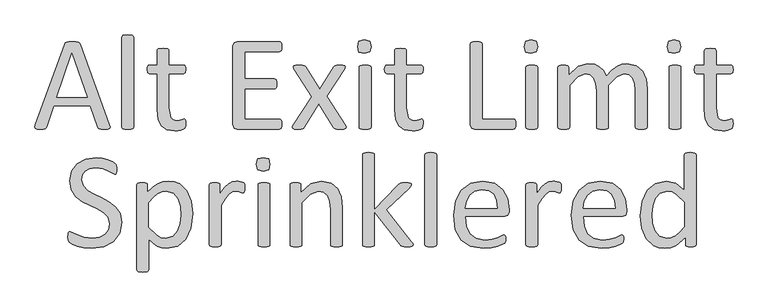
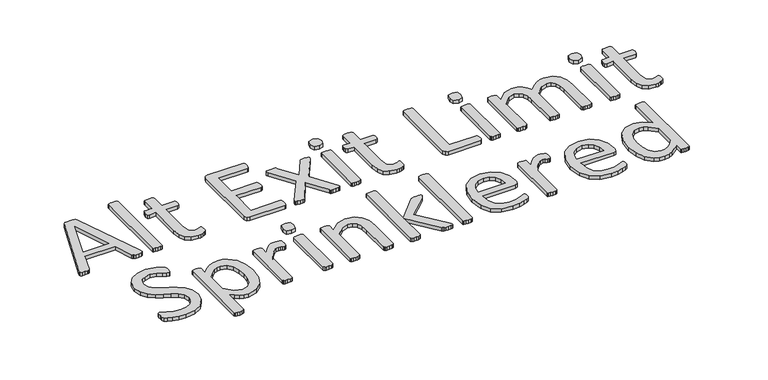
"""IFC4 building model written with IfcOpenShell, lengths in millimetres: proxy geometry, Marker-Alt Exit Limit Sprinklered : Alt Exit Limit Sprinklered Line."""

from ifc_helpers import new_model, si_unit, origin, origin_with_axes, place, context, project, spatial, polyline, outline, extrude, source, transform, mapped, element, save


def generic_models_11812b9f(model_context):
    return source(origin(), model_context, "Body", "SweptSolid", [
        extrude(outline(polyline([(3969.5878214, 57.6759206), (3970.8845935, 52.1872573), (3969.7386089, 48.9604059), (3965.6371902, 47.5430038), (3958.0073451, 47.2414289), (3950.3171851, 47.4826888), (3946.004664, 48.2667836), (3943.8634821, 49.7445006), (3942.5063951, 52.0666274), (3925.3769405, 101.2836516), (3842.2025821, 101.2836516), (3825.8572223, 52.7300921), (3824.5906077, 50.3174929), (3822.3589535, 48.5683585), (3818.1972198, 47.5430038), (3811.140367, 47.2414289), (3803.8120969, 47.6334763), (3799.8011507, 49.1111933), (3798.715481, 52.3078873), (3800.0424106, 57.7965505), (3867.1126692, 242.4810215), (3868.7110161, 245.2253531), (3871.6664502, 246.8840151), (3876.6122786, 247.7284248), (3884.2421237, 247.9696848), (3892.4449611, 247.7284248), (3897.7225219, 246.8840151), (3900.7985859, 245.1650382), (3902.5175628, 242.3603916), (3969.5878214, 57.6759206)]), holes=[polyline([(3883.5183439, 220.9485734), (3848.897545, 120.5844455), (3918.4407178, 120.5844455), (3883.5183439, 220.9485734)])]), origin_with_axes(), (0.0, 0.0, 1.0), 10.0),
        extrude(outline(polyline([(4024.8363438, 52.0063124), (4024.172879, 49.955603), (4022.0316972, 48.477886), (4017.960436, 47.5430038), (4011.2654731, 47.2414289), (4004.6911402, 47.5430038), (4000.5294065, 48.477886), (3998.3882247, 49.955603), (3997.8152324, 52.0063124), (3997.8152324, 258.4644914), (3998.3882247, 260.6358307), (4000.5294065, 262.1738627), (4004.6911402, 263.1087449), (4011.2654731, 263.4103198), (4017.960436, 263.1087449), (4022.0316972, 262.1738627), (4024.172879, 260.6358307), (4024.8363438, 258.4644914), (4024.8363438, 52.0063124)])), origin_with_axes(), (0.0, 0.0, 1.0), 10.0),
        extrude(outline(polyline([(4144.5012655, 61.1138745), (4143.8981157, 53.5745019), (4142.0585088, 49.4730832), (4138.379295, 47.000169), (4132.8001593, 45.1002471), (4126.1353539, 43.86379), (4119.1086586, 43.3812701), (4100.742747, 46.3065467), (4088.2273885, 55.1426914), (4081.1102208, 70.1309641), (4078.8785665, 91.5729397), (4078.8785665, 174.6266682), (4060.5428124, 174.6266682), (4057.014386, 176.88848), (4055.7176139, 184.2167501), (4056.0795038, 188.7102162), (4057.014386, 191.7561227), (4058.552418, 193.4449422), (4060.6634423, 193.927462), (4078.8785665, 193.927462), (4078.8785665, 227.5229063), (4079.4515588, 229.5434582), (4081.5927406, 231.2021201), (4085.7544743, 232.2274748), (4092.3288072, 232.5290497), (4099.0237701, 232.2274748), (4103.0950313, 231.2021201), (4105.2362131, 229.5434582), (4105.8996779, 227.5229063), (4105.8996779, 193.927462), (4139.6760671, 193.927462), (4141.6966189, 193.4449422), (4143.2346509, 191.7561227), (4144.1996906, 188.7102162), (4144.5012655, 184.2167501), (4143.174336, 176.88848), (4139.6760671, 174.6266682), (4105.8996779, 174.6266682), (4105.8996779, 95.9759333), (4109.9106241, 73.9911229), (4115.5123779, 68.4044478), (4124.295747, 66.5422227), (4130.2970876, 67.235845), (4134.9714986, 68.6834045), (4138.4999249, 70.1611216), (4141.1236266, 70.8849013), (4143.5362258, 69.0151369), (4144.1996906, 65.9993879), (4144.5012655, 61.1138745)])), origin_with_axes(), (0.0, 0.0, 1.0), 10.0),
        extrude(outline(polyline([(4364.5303152, 58.7615902), (4364.2287403, 53.6348169), (4363.1430707, 49.9857605), (4361.3336213, 47.8747362), (4359.101967, 47.2414289), (4262.5376828, 47.2414289), (4255.782405, 49.6540281), (4252.585711, 58.0981254), (4252.585711, 237.1129882), (4255.8125625, 245.5570855), (4262.6583128, 247.9696848), (4359.1622819, 247.9696848), (4361.4542512, 247.3363775), (4363.1129132, 245.2253531), (4364.1382679, 241.5762968), (4364.5303152, 236.1479485), (4364.1382679, 231.0513327), (4363.1129132, 227.4625913), (4361.4542512, 225.4420395), (4359.1622819, 224.8087322), (4279.6068224, 224.8087322), (4279.6068224, 163.0461919), (4347.6421206, 163.0461919), (4349.8737749, 162.2922546), (4351.6229094, 160.2113878), (4352.648264, 156.5623315), (4352.9498389, 151.0435107), (4352.648264, 145.8865799), (4351.6229094, 142.388311), (4349.8737749, 140.4582316), (4347.6421206, 139.8852393), (4279.6068224, 139.8852393), (4279.6068224, 70.4023815), (4359.101967, 70.4023815), (4361.3637787, 69.7690742), (4363.1430707, 67.7485223), (4364.2287403, 64.159781), (4364.5303152, 58.7615902)])), origin_with_axes(), (0.0, 0.0, 1.0), 10.0),
        extrude(outline(polyline([(4510.9750884, 54.8411165), (4512.1813881, 51.2825326), (4510.7338285, 48.9302484), (4506.2705199, 47.6334763), (4498.4295725, 47.2414289), (4491.1013023, 47.4826888), (4486.7887812, 48.2366261), (4484.315867, 49.5937131), (4482.8079924, 51.5237925), (4449.4538081, 105.9279051), (4416.2202537, 51.5237925), (4414.7425367, 49.5937131), (4412.2696225, 48.2366261), (4408.0475738, 47.4826888), (4401.0811936, 47.2414289), (4393.7227659, 47.6334763), (4389.5610322, 48.9302484), (4388.3245751, 51.2825326), (4389.8022922, 54.8411165), (4433.0481333, 121.7907451), (4392.0942614, 186.3277745), (4390.7974893, 189.8863583), (4392.1847339, 192.329115), (4396.6782, 193.6258871), (4404.6397774, 193.927462), (4411.8172601, 193.6862021), (4416.0694663, 192.9925798), (4418.391593, 191.7862802), (4419.7788376, 189.9466733), (4451.4442025, 138.8598846), (4483.5920872, 189.9466733), (4484.9793317, 191.6354928), (4487.0903561, 192.9322649), (4490.7997274, 193.6862021), (4497.3439028, 193.927462), (4504.7023304, 193.6258871), (4508.9243791, 192.4799025), (4510.1608362, 190.1276182), (4508.6228042, 186.3277745), (4467.9705072, 122.5748398), (4510.9750884, 54.8411165)])), origin_with_axes(), (0.0, 0.0, 1.0), 10.0),
        extrude(outline(polyline([(4569.1187299, 236.5701534), (4565.8014059, 224.2357399), (4553.4971499, 220.9485734), (4541.4944687, 224.1452674), (4538.2374597, 236.2082635), (4541.5547837, 248.5426771), (4553.8590397, 251.8298435), (4565.8617209, 248.6331496), (4569.1187299, 236.5701534)])), origin_with_axes(), (0.0, 0.0, 1.0), 10.0),
        extrude(outline(polyline([(4569.1187299, 51.9459974), (4568.4552651, 49.8952881), (4566.3140833, 48.4477285), (4562.2428221, 47.5430038), (4555.5478592, 47.2414289), (4548.9735263, 47.5430038), (4544.8117926, 48.4477285), (4542.6706108, 49.8952881), (4542.0976185, 51.9459974), (4542.0976185, 189.2228935), (4542.6706108, 191.1831304), (4544.8117926, 192.7211624), (4548.9735263, 193.6258871), (4555.5478592, 193.927462), (4562.2428221, 193.6258871), (4566.3140833, 192.7211624), (4568.4552651, 191.1831304), (4569.1187299, 189.2228935), (4569.1187299, 51.9459974)])), origin_with_axes(), (0.0, 0.0, 1.0), 10.0),
        extrude(outline(polyline([(4688.7836516, 61.1138745), (4688.1805018, 53.5745019), (4686.3408949, 49.4730832), (4682.6616811, 47.000169), (4677.0825454, 45.1002471), (4670.41774, 43.86379), (4663.3910447, 43.3812701), (4645.0251331, 46.3065467), (4632.5097746, 55.1426914), (4625.3926069, 70.1309641), (4623.1609526, 91.5729397), (4623.1609526, 174.6266682), (4604.8251985, 174.6266682), (4601.2967721, 176.88848), (4600.0, 184.2167501), (4600.3618899, 188.7102162), (4601.2967721, 191.7561227), (4602.8348041, 193.4449422), (4604.9458284, 193.927462), (4623.1609526, 193.927462), (4623.1609526, 227.5229063), (4623.7339449, 229.5434582), (4625.8751267, 231.2021201), (4630.0368604, 232.2274748), (4636.6111933, 232.5290497), (4643.3061562, 232.2274748), (4647.3774174, 231.2021201), (4649.5185992, 229.5434582), (4650.182064, 227.5229063), (4650.182064, 193.927462), (4683.9584532, 193.927462), (4685.979005, 193.4449422), (4687.517037, 191.7561227), (4688.4820767, 188.7102162), (4688.7836516, 184.2167501), (4687.4567221, 176.88848), (4683.9584532, 174.6266682), (4650.182064, 174.6266682), (4650.182064, 95.9759333), (4654.1930102, 73.9911229), (4659.794764, 68.4044478), (4668.5781331, 66.5422227), (4674.5794737, 67.235845), (4679.2538847, 68.6834045), (4682.7823111, 70.1611216), (4685.4060127, 70.8849013), (4687.8186119, 69.0151369), (4688.4820767, 65.9993879), (4688.7836516, 61.1138745)])), origin_with_axes(), (0.0, 0.0, 1.0), 10.0),
        extrude(outline(polyline([(4901.0923838, 58.8822202), (4900.7908089, 53.6951318), (4899.7956117, 50.1063905), (4898.0766348, 47.9350512), (4895.6640355, 47.2414289), (4806.8200689, 47.2414289), (4800.0647911, 49.6238706), (4796.8680971, 58.0378105), (4796.8680971, 243.0238563), (4797.5014044, 245.1951957), (4799.7029012, 246.6427552), (4803.9249498, 247.5776374), (4810.3786528, 247.9696848), (4816.8926707, 247.5776374), (4821.0544044, 246.6427552), (4823.2559012, 245.1951957), (4823.8892085, 243.0238563), (4823.8892085, 70.4023815), (4895.6640355, 70.4023815), (4898.0766348, 69.7087592), (4899.7956117, 67.6882074), (4900.7908089, 64.1899385), (4901.0923838, 58.8822202)])), origin_with_axes(), (0.0, 0.0, 1.0), 10.0),
        extrude(outline(polyline([(4951.2744478, 236.5701534), (4947.9571238, 224.2357399), (4935.6528678, 220.9485734), (4923.6501866, 224.1452674), (4920.3931776, 236.2082635), (4923.7105016, 248.5426771), (4936.0147576, 251.8298435), (4948.0174388, 248.6331496), (4951.2744478, 236.5701534)])), origin_with_axes(), (0.0, 0.0, 1.0), 10.0),
        extrude(outline(polyline([(4951.2744478, 51.9459974), (4950.610983, 49.8952881), (4948.4698012, 48.4477285), (4944.39854, 47.5430038), (4937.7035771, 47.2414289), (4931.1292442, 47.5430038), (4926.9675105, 48.4477285), (4924.8263287, 49.8952881), (4924.2533364, 51.9459974), (4924.2533364, 189.2228935), (4924.8263287, 191.1831304), (4926.9675105, 192.7211624), (4931.1292442, 193.6258871), (4937.7035771, 193.927462), (4944.39854, 193.6258871), (4948.4698012, 192.7211624), (4950.610983, 191.1831304), (4951.2744478, 189.2228935), (4951.2744478, 51.9459974)])), origin_with_axes(), (0.0, 0.0, 1.0), 10.0),
        extrude(outline(polyline([(5202.1847676, 52.0063124), (5201.5213028, 49.955603), (5199.4102785, 48.477886), (5195.3390173, 47.5430038), (5188.8551569, 47.2414289), (5182.160194, 47.5430038), (5178.0286178, 48.4477285), (5175.827121, 49.8952881), (5175.1636562, 52.0063124), (5175.1636562, 135.6028757), (5173.6859392, 151.5260306), (5168.9813707, 163.9207591), (5160.7182184, 171.8823366), (5148.9266396, 174.6266682), (5132.0686025, 167.9015478), (5113.401116, 148.1483917), (5113.401116, 52.0063124), (5112.7376512, 49.8952881), (5110.5361544, 48.4477285), (5106.3744207, 47.5430038), (5099.8302453, 47.2414289), (5093.3463849, 47.5430038), (5089.0941787, 48.4477285), (5086.9529969, 49.8952881), (5086.3800046, 52.0063124), (5086.3800046, 135.6028757), (5084.7515001, 151.5260306), (5079.8961442, 163.9207591), (5071.7536218, 171.8823366), (5060.082673, 174.6266682), (5043.1643209, 167.9015478), (5024.6174643, 148.1483917), (5024.6174643, 52.0063124), (5023.9539995, 49.8952881), (5021.8128177, 48.4477285), (5017.7415565, 47.5430038), (5011.0465937, 47.2414289), (5004.4722608, 47.5430038), (5000.3105271, 48.4477285), (4998.1693453, 49.8952881), (4997.596353, 51.9459974), (4997.596353, 189.2228935), (4998.0788728, 191.2736029), (5000.0391097, 192.7814774), (5003.808796, 193.6862021), (5009.900609, 193.927462), (5015.8717921, 193.6862021), (5019.551006, 192.7814774), (5021.4509278, 191.2736029), (5022.0239202, 189.2228935), (5022.0239202, 171.0680843), (5044.3706205, 191.3640754), (5066.234801, 197.7876208), (5081.4341762, 195.6765965), (5093.3162274, 189.7657284), (5102.0920571, 180.6883238), (5108.1537126, 168.896745), (5121.1817485, 182.3771432), (5133.0637997, 191.3037604), (5144.1919136, 196.2495888), (5155.0787677, 197.7876208), (5177.3349955, 193.0830523), (5191.9010634, 180.5073788), (5199.8324834, 162.0811522), (5202.1847676, 139.7646093), (5202.1847676, 52.0063124)])), origin_with_axes(), (0.0, 0.0, 1.0), 10.0),
        extrude(outline(polyline([(5279.3879429, 236.5701534), (5276.070619, 224.2357399), (5263.7663629, 220.9485734), (5251.7636818, 224.1452674), (5248.5066728, 236.2082635), (5251.8239967, 248.5426771), (5264.1282528, 251.8298435), (5276.130934, 248.6331496), (5279.3879429, 236.5701534)])), origin_with_axes(), (0.0, 0.0, 1.0), 10.0),
        extrude(outline(polyline([(5279.3879429, 51.9459974), (5278.7244781, 49.8952881), (5276.5832963, 48.4477285), (5272.5120351, 47.5430038), (5265.8170723, 47.2414289), (5259.2427394, 47.5430038), (5255.0810057, 48.4477285), (5252.9398239, 49.8952881), (5252.3668316, 51.9459974), (5252.3668316, 189.2228935), (5252.9398239, 191.1831304), (5255.0810057, 192.7211624), (5259.2427394, 193.6258871), (5265.8170723, 193.927462), (5272.5120351, 193.6258871), (5276.5832963, 192.7211624), (5278.7244781, 191.1831304), (5279.3879429, 189.2228935), (5279.3879429, 51.9459974)])), origin_with_axes(), (0.0, 0.0, 1.0), 10.0),
        extrude(outline(polyline([(5399.0528647, 61.1138745), (5398.4497149, 53.5745019), (5396.610108, 49.4730832), (5392.9308942, 47.000169), (5387.3517584, 45.1002471), (5380.6869531, 43.86379), (5373.6602578, 43.3812701), (5355.2943462, 46.3065467), (5342.7789877, 55.1426914), (5335.66182, 70.1309641), (5333.4301657, 91.5729397), (5333.4301657, 174.6266682), (5315.0944115, 174.6266682), (5311.5659852, 176.88848), (5310.2692131, 184.2167501), (5310.631103, 188.7102162), (5311.5659852, 191.7561227), (5313.1040172, 193.4449422), (5315.2150415, 193.927462), (5333.4301657, 193.927462), (5333.4301657, 227.5229063), (5334.003158, 229.5434582), (5336.1443398, 231.2021201), (5340.3060735, 232.2274748), (5346.8804064, 232.5290497), (5353.5753692, 232.2274748), (5357.6466304, 231.2021201), (5359.7878122, 229.5434582), (5360.451277, 227.5229063), (5360.451277, 193.927462), (5394.2276662, 193.927462), (5396.2482181, 193.4449422), (5397.7862501, 191.7561227), (5398.7512898, 188.7102162), (5399.0528647, 184.2167501), (5397.7259351, 176.88848), (5394.2276662, 174.6266682), (5360.451277, 174.6266682), (5360.451277, 95.9759333), (5364.4622233, 73.9911229), (5370.0639771, 68.4044478), (5378.8473462, 66.5422227), (5384.8486867, 67.235845), (5389.5230977, 68.6834045), (5393.0515241, 70.1611216), (5395.6752258, 70.8849013), (5398.087825, 69.0151369), (5398.7512898, 65.9993879), (5399.0528647, 61.1138745)])), origin_with_axes(), (0.0, 0.0, 1.0), 10.0),
        extrude(outline(polyline([(3997.8152324, -166.3294418), (3992.6281441, -191.6617337), (3978.1827062, -210.5101651), (3956.4391556, -222.1811139), (3929.5386742, -226.1015877), (3910.8410302, -224.5937131), (3895.4607101, -220.8843418), (3884.1214937, -216.3305608), (3877.7582633, -212.3196146), (3875.1345616, -207.6753611), (3874.2901519, -199.7439411), (3874.5917268, -193.8632305), (3875.526609, -190.0935442), (3877.0947985, -188.0729923), (3879.2962953, -187.5), (3885.4785808, -189.9125992), (3895.762285, -195.1600026), (3910.8711877, -200.4677209), (3931.2878087, -202.9406351), (3947.361751, -200.5883508), (3959.8771095, -193.9537029), (3967.9593169, -183.4588963), (3970.794121, -169.2848758), (3966.8133323, -154.5680205), (3956.3486831, -143.8621114), (3941.5413554, -135.4180141), (3924.4722158, -127.5770666), (3907.4935488, -118.740922), (3892.746536, -107.3413906), (3882.1914143, -91.9007555), (3878.1503106, -70.7301973), (3882.7644067, -48.081922), (3895.5813401, -31.4349874), (3915.1233938, -21.1814406), (3939.611276, -17.6530143), (3953.1519892, -18.9497864), (3965.9689226, -22.3877403), (3976.7049891, -27.1827812), (3982.8872747, -31.4651449), (3984.8173541, -33.9682166), (3985.6014488, -36.1998708), (3986.0839686, -39.4870373), (3986.2347561, -44.4328657), (3985.9934962, -49.5596391), (3985.2998739, -53.2991679), (3983.9729443, -55.5308222), (3982.0127074, -56.2546019), (3976.5843592, -53.9023177), (3967.5371121, -48.6247569), (3954.8709661, -43.2567236), (3938.4652914, -40.8139669), (3923.7182786, -43.0154637), (3913.3441019, -48.8660168), (3907.2221313, -57.551374), (3905.171422, -68.1969681), (3909.0918957, -82.7328785), (3919.5565449, -93.52926), (3934.4241877, -102.1543023), (3951.4028547, -110.0555647), (3968.4116793, -118.8313944), (3983.279322, -130.1102958), (3993.8042862, -145.4303009), (3997.8152324, -166.3294418)])), origin_with_axes(), (0.0, 0.0, 1.0), 10.0),
        extrude(outline(polyline([(4159.9419006, -146.787388), (4156.0817418, -179.8701549), (4144.7425255, -204.780242), (4126.1956689, -220.5526094), (4100.8935345, -226.1015877), (4089.7051055, -224.8651306), (4079.6325038, -220.9446568), (4069.8614769, -214.2195365), (4059.5777727, -204.6897695), (4059.5777727, -275.137667), (4058.9143079, -277.3391638), (4056.7731261, -278.9073533), (4052.7018649, -279.8422355), (4046.006902, -280.1438104), (4039.4325691, -279.8422355), (4035.2708354, -278.9073533), (4033.1296536, -277.3391638), (4032.5566613, -275.197982), (4032.5566613, -80.3805942), (4033.0391811, -78.1187824), (4034.999418, -76.6410654), (4038.7691043, -75.7966557), (4044.3783975, -75.5553958), (4050.0178482, -75.7664982), (4053.697062, -76.5505929), (4055.7477714, -77.9378375), (4056.3207637, -80.0790193), (4056.3207637, -97.6306787), (4068.2932874, -86.2311474), (4079.9039212, -78.1790974), (4091.9066023, -73.3237415), (4104.8743232, -71.695237), (4118.6261388, -73.1804934), (4130.2066151, -77.6362626), (4147.2757546, -93.8609924), (4156.8959941, -117.8060398), (4159.9419006, -146.787388)]), holes=[polyline([(4132.9207892, -149.7428221), (4131.3525997, -129.2960436), (4125.954409, -111.7443842), (4115.6707047, -99.4702856), (4099.6269199, -94.8561896), (4090.1574679, -96.2735916), (4080.7181734, -100.7972152), (4070.6757291, -108.9397376), (4059.5777727, -121.3344661), (4059.5777727, -177.2464533), (4078.908724, -196.3361447), (4088.2801641, -201.2895125), (4098.1190454, -202.9406351), (4114.1025152, -198.326539), (4124.8988968, -186.0524405), (4130.9605524, -168.8928284), (4132.9207892, -149.7428221)])]), origin_with_axes(), (0.0, 0.0, 1.0), 10.0),
        extrude(outline(polyline([(4279.6068224, -87.1358721), (4279.4560349, -92.6245353), (4278.8528851, -96.1831192), (4277.737058, -98.203671), (4275.8672936, -98.8972933), (4272.942017, -98.203671), (4269.0517007, -96.8164265), (4264.1963448, -95.4894969), (4258.3759491, -94.8561896), (4251.0175215, -96.5148516), (4243.4479914, -101.9431998), (4235.1546816, -111.9554866), (4225.5645996, -127.2453343), (4225.5645996, -217.5368604), (4224.9011348, -219.5875697), (4222.759953, -221.0351293), (4218.6886918, -221.939854), (4211.993729, -222.2414289), (4205.4193961, -221.939854), (4201.2576624, -221.0351293), (4199.1164806, -219.5875697), (4198.5434883, -217.5368604), (4198.5434883, -80.2599643), (4199.0260081, -78.2092549), (4200.986245, -76.7013804), (4204.7559313, -75.7966557), (4210.8477443, -75.5553958), (4216.8189274, -75.7966557), (4220.4981413, -76.7013804), (4222.3980631, -78.2092549), (4222.9710555, -80.2599643), (4222.9710555, -100.2845379), (4233.4055471, -85.9898874), (4242.6638967, -77.2743727), (4251.2889389, -72.9015366), (4259.9441386, -71.695237), (4264.3471322, -71.9063394), (4269.5342206, -72.7205917), (4274.419734, -74.0776787), (4277.495798, -75.5553958), (4278.7020977, -76.9426403), (4279.2449325, -78.6616173), (4279.5465074, -81.7075238), (4279.6068224, -87.1358721)])), origin_with_axes(), (0.0, 0.0, 1.0), 10.0),
        extrude(outline(polyline([(4337.5092039, -217.5368604), (4336.8457391, -219.5875697), (4334.7045573, -221.0351293), (4330.6332961, -221.939854), (4323.9383332, -222.2414289), (4317.3640003, -221.939854), (4313.2022666, -221.0351293), (4311.0610848, -219.5875697), (4310.4880925, -217.5368604), (4310.4880925, -80.2599643), (4311.0610848, -78.2997274), (4313.2022666, -76.7616954), (4317.3640003, -75.8569707), (4323.9383332, -75.5553958), (4330.6332961, -75.8569707), (4334.7045573, -76.7616954), (4336.8457391, -78.2997274), (4337.5092039, -80.2599643), (4337.5092039, -217.5368604)])), origin_with_axes(), (0.0, 0.0, 1.0), 10.0),
        extrude(outline(polyline([(4337.5092039, -32.9127044), (4334.1918799, -45.2471179), (4321.8876239, -48.5342844), (4309.8849427, -45.3375904), (4306.6279337, -33.2745943), (4309.9452577, -20.9401807), (4322.2495137, -17.6530143), (4334.2521949, -20.8497082), (4337.5092039, -32.9127044)])), origin_with_axes(), (0.0, 0.0, 1.0), 10.0),
        extrude(outline(polyline([(4503.4960308, -217.4765454), (4502.832566, -219.5272548), (4500.6913842, -221.0049718), (4496.620123, -221.939854), (4490.0457901, -222.2414289), (4483.3508273, -221.939854), (4479.2795661, -221.0351293), (4477.1383843, -219.5875697), (4476.4749195, -217.4765454), (4476.4749195, -136.8957312), (4474.6956275, -117.9568272), (4469.5386967, -105.5620987), (4460.762867, -97.6005212), (4448.3078235, -94.8561896), (4430.0022268, -101.58131), (4410.8522204, -121.3344661), (4410.8522204, -217.4765454), (4410.1887556, -219.5875697), (4408.0475738, -221.0351293), (4403.9763126, -221.939854), (4397.2813498, -222.2414289), (4390.7070169, -221.939854), (4386.5452832, -221.0351293), (4384.4041014, -219.5875697), (4383.8311091, -217.5368604), (4383.8311091, -80.2599643), (4384.3136289, -78.2092549), (4386.2738658, -76.7013804), (4390.0435521, -75.7966557), (4396.1353651, -75.5553958), (4402.1065482, -75.7966557), (4405.7857621, -76.7013804), (4407.6856839, -78.2092549), (4408.2586763, -80.2599643), (4408.2586763, -98.4147735), (4431.3291564, -78.1187824), (4454.5202665, -71.695237), (4477.5605891, -76.3998055), (4492.6996493, -88.975479), (4500.9929591, -107.4017056), (4503.4960308, -132.7943125), (4503.4960308, -217.4765454)])), origin_with_axes(), (0.0, 0.0, 1.0), 10.0),
        extrude(outline(polyline([(4665.622699, -217.3559155), (4664.9893917, -219.4970973), (4662.9085249, -221.0351293), (4658.8372637, -221.939854), (4652.1724583, -222.2414289), (4645.2965505, -222.000169), (4640.712612, -221.2462317), (4637.696863, -219.7383572), (4635.5858386, -217.3559155), (4576.8390474, -141.4193547), (4576.8390474, -217.5368604), (4576.1755826, -219.5875697), (4574.0344008, -221.0351293), (4569.9631396, -221.939854), (4563.2681767, -222.2414289), (4556.6938438, -221.939854), (4552.5321102, -221.0049718), (4550.3909284, -219.5272548), (4549.817936, -217.4765454), (4549.817936, -11.0183664), (4550.3909284, -8.8470271), (4552.5321102, -7.3089951), (4556.6938438, -6.3741129), (4563.2681767, -6.072538), (4569.9631396, -6.3741129), (4574.0344008, -7.3089951), (4576.1755826, -8.8771846), (4576.8390474, -11.0786814), (4576.8390474, -137.9210858), (4630.5193802, -80.8631141), (4633.2033969, -78.3600424), (4636.5810358, -76.7013804), (4641.2252893, -75.7966557), (4647.7091498, -75.5553958), (4654.3437976, -75.7966557), (4658.6563188, -76.5505929), (4661.0387605, -77.90768), (4661.7625403, -80.1393343), (4660.7070281, -83.7883906), (4657.1786017, -88.0405968), (4603.8601588, -137.7401409), (4661.8228552, -210.1784328), (4664.7481318, -214.3703239), (4665.622699, -217.3559155)])), origin_with_axes(), (0.0, 0.0, 1.0), 10.0),
        extrude(outline(polyline([(4719.6649218, -217.4765454), (4719.001457, -219.5272548), (4716.8602752, -221.0049718), (4712.789014, -221.939854), (4706.0940511, -222.2414289), (4699.5197182, -221.939854), (4695.3579845, -221.0049718), (4693.2168027, -219.5272548), (4692.6438104, -217.4765454), (4692.6438104, -11.0183664), (4693.2168027, -8.8470271), (4695.3579845, -7.3089951), (4699.5197182, -6.3741129), (4706.0940511, -6.072538), (4712.789014, -6.3741129), (4716.8602752, -7.3089951), (4719.001457, -8.8470271), (4719.6649218, -11.0183664), (4719.6649218, -217.4765454)])), origin_with_axes(), (0.0, 0.0, 1.0), 10.0),
        extrude(outline(polyline([(4885.6517487, -141.7209296), (4882.6661572, -150.2253419), (4875.8204069, -152.7585711), (4785.2876208, -152.7585711), (4787.5494326, -175.075114), (4795.0586477, -192.0839385), (4808.7501483, -203.00095), (4829.3778717, -206.8007938), (4846.5073262, -205.0215019), (4859.5353621, -201.0105557), (4868.5524517, -196.9996095), (4873.8903275, -195.2203175), (4875.7600919, -195.7329949), (4877.056864, -197.2408694), (4877.7203288, -200.045516), (4877.9314312, -204.4485096), (4877.7806437, -207.6753611), (4877.3885964, -210.1181178), (4876.6346591, -212.0783546), (4875.277572, -213.7370166), (4870.3619011, -216.6622932), (4859.776622, -220.8240269), (4844.6978768, -224.4730832), (4826.4224377, -226.1015877), (4796.9585696, -221.2763892), (4775.6975389, -206.9214238), (4762.669503, -183.0065339), (4758.2665094, -149.6221921), (4762.8806055, -117.0521025), (4776.1800587, -92.5642203), (4797.169672, -77.0934278), (4824.7336182, -71.695237), (4852.4785093, -76.9124828), (4871.3269408, -90.9658733), (4882.1836373, -111.6840692), (4885.6517487, -137.0766761), (4885.6517487, -141.7209296)]), holes=[polyline([(4858.6306374, -133.4577773), (4856.6779399, -115.747791), (4849.9754376, -102.3050897), (4838.6889969, -93.8232956), (4822.9844838, -90.9960308), (4806.9105414, -94.4942997), (4795.3602226, -103.8129642), (4788.1525824, -117.3536774), (4785.2876208, -133.4577773), (4858.6306374, -133.4577773)])]), origin_with_axes(), (0.0, 0.0, 1.0), 10.0),
        extrude(outline(polyline([(5005.3166705, -87.1358721), (5005.165883, -92.6245353), (5004.5627332, -96.1831192), (5003.4469061, -98.203671), (5001.5771417, -98.8972933), (4998.6518651, -98.203671), (4994.7615489, -96.8164265), (4989.9061929, -95.4894969), (4984.0857973, -94.8561896), (4976.7273696, -96.5148516), (4969.1578396, -101.9431998), (4960.8645297, -111.9554866), (4951.2744478, -127.2453343), (4951.2744478, -217.5368604), (4950.610983, -219.5875697), (4948.4698012, -221.0351293), (4944.39854, -221.939854), (4937.7035771, -222.2414289), (4931.1292442, -221.939854), (4926.9675105, -221.0351293), (4924.8263287, -219.5875697), (4924.2533364, -217.5368604), (4924.2533364, -80.2599643), (4924.7358562, -78.2092549), (4926.6960931, -76.7013804), (4930.4657794, -75.7966557), (4936.5575925, -75.5553958), (4942.5287756, -75.7966557), (4946.2079894, -76.7013804), (4948.1079113, -78.2092549), (4948.6809036, -80.2599643), (4948.6809036, -100.2845379), (4959.1153953, -85.9898874), (4968.3737448, -77.2743727), (4976.998787, -72.9015366), (4985.6539868, -71.695237), (4990.0569804, -71.9063394), (4995.2440687, -72.7205917), (5000.1295822, -74.0776787), (5003.2056462, -75.5553958), (5004.4119458, -76.9426403), (5004.9547806, -78.6616173), (5005.2563555, -81.7075238), (5005.3166705, -87.1358721)])), origin_with_axes(), (0.0, 0.0, 1.0), 10.0),
        extrude(outline(polyline([(5155.8628624, -141.7209296), (5152.8772709, -150.2253419), (5146.0315205, -152.7585711), (5055.4987345, -152.7585711), (5057.7605462, -175.075114), (5065.2697613, -192.0839385), (5078.961262, -203.00095), (5099.5889854, -206.8007938), (5116.7184399, -205.0215019), (5129.7464757, -201.0105557), (5138.7635654, -196.9996095), (5144.1014412, -195.2203175), (5145.9712056, -195.7329949), (5147.2679776, -197.2408694), (5147.9314424, -200.045516), (5148.1425449, -204.4485096), (5147.9917574, -207.6753611), (5147.59971, -210.1181178), (5146.8457728, -212.0783546), (5145.4886857, -213.7370166), (5140.5730148, -216.6622932), (5129.9877357, -220.8240269), (5114.9089905, -224.4730832), (5096.6335513, -226.1015877), (5067.1696832, -221.2763892), (5045.9086525, -206.9214238), (5032.8806167, -183.0065339), (5028.4776231, -149.6221921), (5033.0917191, -117.0521025), (5046.3911724, -92.5642203), (5067.3807857, -77.0934278), (5094.9447319, -71.695237), (5122.689623, -76.9124828), (5141.5380545, -90.9658733), (5152.394751, -111.6840692), (5155.8628624, -137.0766761), (5155.8628624, -141.7209296)]), holes=[polyline([(5128.841751, -133.4577773), (5126.8890535, -115.747791), (5120.1865513, -102.3050897), (5108.9001105, -93.8232956), (5093.1955974, -90.9960308), (5077.1216551, -94.4942997), (5065.5713363, -103.8129642), (5058.3636961, -117.3536774), (5055.4987345, -133.4577773), (5128.841751, -133.4577773)])]), origin_with_axes(), (0.0, 0.0, 1.0), 10.0),
        extrude(outline(polyline([(5314.1293718, -217.4162304), (5313.5563795, -219.6177272), (5311.5961426, -221.0954443), (5307.9470863, -221.939854), (5302.4282656, -222.2414289), (5296.6983424, -221.939854), (5292.9588136, -221.1557592), (5290.8477893, -219.7986722), (5290.1843245, -217.7781203), (5290.1843245, -200.6486658), (5267.7773091, -219.3764673), (5255.6163012, -224.4203076), (5242.3545448, -226.1015877), (5228.3916267, -224.6012525), (5216.660363, -220.1002471), (5199.440436, -203.8755173), (5189.7900391, -179.80984), (5186.7441325, -150.7078618), (5190.5439763, -117.9869847), (5201.7625627, -93.0768977), (5220.1586319, -77.2442152), (5245.5512387, -71.695237), (5267.4757342, -77.0934278), (5287.1082605, -92.9261102), (5287.1082605, -11.0786814), (5287.6812528, -8.967657), (5289.8827496, -7.3994675), (5294.0444833, -6.4645853), (5300.4378712, -6.072538), (5307.1328341, -6.4645853), (5311.2040953, -7.3994675), (5313.4055921, -8.9374996), (5314.1293718, -11.0183664), (5314.1293718, -217.4162304)]), holes=[polyline([(5287.1082605, -120.4297414), (5267.7471517, -101.400365), (5258.202306, -96.4922335), (5248.2654129, -94.8561896), (5232.281943, -99.4401281), (5221.6061914, -111.5332818), (5215.6350083, -128.5421063), (5213.7652439, -147.8127427), (5215.3334334, -168.1992062), (5220.7919392, -185.8714955), (5231.1058009, -198.2662241), (5247.2400582, -202.9406351), (5256.7095102, -201.583548), (5266.0583322, -197.0900819), (5276.0404615, -188.9475595), (5287.1082605, -176.5829885), (5287.1082605, -120.4297414)])]), origin_with_axes(), (0.0, 0.0, 1.0), 10.0),
    ])


if __name__ == "__main__":
    model = new_model("IFC4")
    model_context = context("Model", 3, world=origin())
    ifc_project = project(units=[si_unit("LENGTHUNIT", "METRE", prefix="MILLI")], contexts=[model_context])
    site = spatial("IfcSite", under=ifc_project)
    building = spatial("IfcBuilding", under=site)
    placement = place(None, origin())
    generic_models_shape = generic_models_11812b9f(model_context)
    element("IfcBuildingElementProxy", 1, Name="Marker-Alt Exit Limit Sprinklered : Alt Exit Limit Sprinklered Line", ObjectType="Marker-Alt Exit Limit Sprinklered : Alt Exit Limit Sprinklered Line", at=placement, inside=building, context=model_context, shape_type="MappedRepresentation", body=[
        mapped(generic_models_shape, transform((0.0, 0.0, 0.0), x_axis=(1.0, 0.0, 0.0), y_axis=(0.0, 1.0, 0.0), z_axis=(0.0, 0.0, 1.0))),
    ])
    save(model, "model.ifc")
